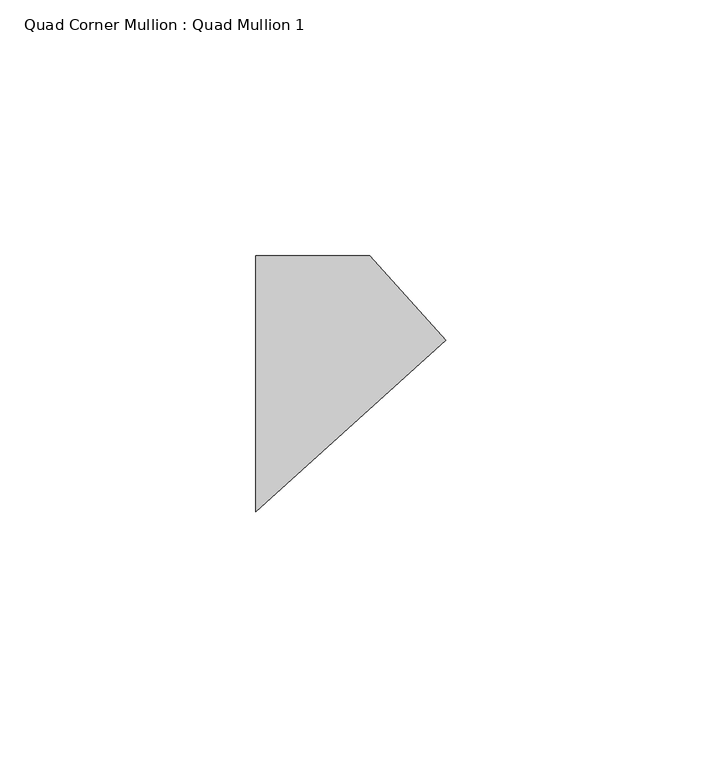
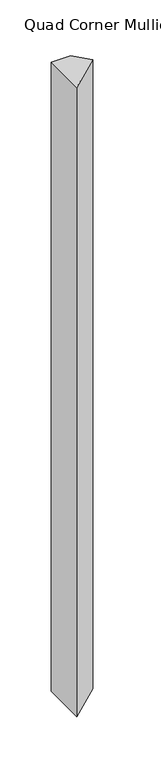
"""IFC4 building model written with IfcOpenShell, lengths in millimetres: member geometry, Quad Corner Mullion : Quad Mullion 1."""

from ifc_helpers import new_model, si_unit, frame, origin, place, context, project, spatial, polyline, outline, extrude, source, transform, mapped, element, save


def quad_corner_mullion_quad_mullion_1_cfab1334(model_context):
    return source(origin(), model_context, "Body", "SweptSolid", [
        extrude(outline(polyline([(26.0265241, 8.4565303), (-11.1307171, -25.0), (-11.1307171, 25.0), (11.1307171, 25.0), (26.0265241, 8.4565303)])), frame((0.0, 0.0, -750.0), z_axis=(0.0, 0.0, 1.0), x_axis=(1.0, 0.0, 0.0)), (0.0, 0.0, 1.0), 750.0),
    ])


if __name__ == "__main__":
    model = new_model("IFC4")
    model_context = context("Model", 3, world=origin())
    ifc_project = project(units=[si_unit("LENGTHUNIT", "METRE", prefix="MILLI")], contexts=[model_context])
    site = spatial("IfcSite", under=ifc_project)
    building = spatial("IfcBuilding", under=site)
    placement = place(None, origin())
    quad_corner_mullion_quad_mullion_1_shape = quad_corner_mullion_quad_mullion_1_cfab1334(model_context)
    element("IfcMember", 1, ObjectType="Quad Corner Mullion : Quad Mullion 1", at=placement, inside=building, context=model_context, shape_type="MappedRepresentation", body=[
        mapped(quad_corner_mullion_quad_mullion_1_shape, transform((0.0, 0.0, 0.0), x_axis=(1.0, 0.0, 0.0), y_axis=(0.0, 1.0, 0.0), z_axis=(0.0, 0.0, 1.0))),
    ])
    save(model, "model.ifc")
